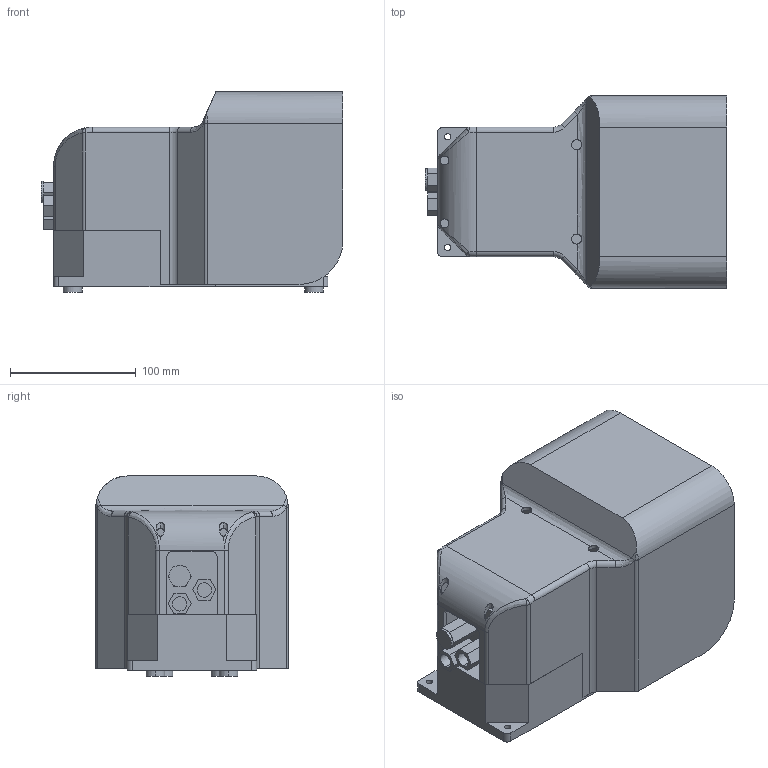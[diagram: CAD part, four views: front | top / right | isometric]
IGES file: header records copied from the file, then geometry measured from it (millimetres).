
Global section: file name: No Iges File Name specified; native system: AutoDesk Inventor R11.0; preprocessor: AutoDesk Inventor Iges Exporter R11.0; author: No Author specified; organization: No Organization specified; date: 20061219.113513; units: millimetre
Bounding box: 240 x 153 x 159 mm (x, y, z)
Volume: 1065237.3 mm3; surface area: 300668.3 mm2
Topology: 2 solids, 3 shells, 230 faces, 604 edges, 386 vertices
Faces by surface type: plane 122, cylinder 40, bspline 32, revolution 30, torus 4, sphere 2
